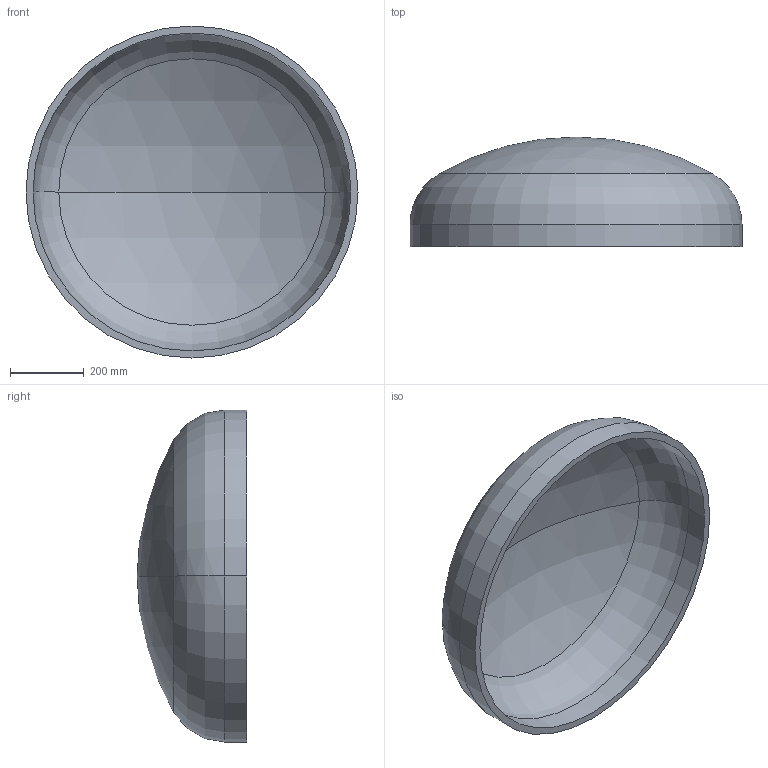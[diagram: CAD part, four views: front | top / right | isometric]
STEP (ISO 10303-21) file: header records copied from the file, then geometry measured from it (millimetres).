
FILE_DESCRIPTION (( 'STEP AP203' ), '1' );
FILE_NAME ('DIN 28013 Korbbogenform_-_Boden DIN 28013 - 900 x 60 - I - s=19.step', '2016-07-01T08:27:19', ( '' ), ( '' ), 'SwSTEP 2.0', 'SolidWorks 2013', '' );
FILE_SCHEMA (( 'CONFIG_CONTROL_DESIGN' ));
Length unit declared in the file: millimetre
Products named in the file (1): DIN 28013 Korbbogenform_-_Boden DIN 28013 - 900 x 60 - I - s=19
Bounding box: 900 x 297.28 x 900 mm (x, y, z)
Volume: 19470127.3 mm3; surface area: 2102829.6 mm2
Topology: 1 solids, 1 shells, 13 faces, 24 edges, 14 vertices
Faces by surface type: torus 4, cylinder 4, sphere 4, plane 1
Entity records: 407 total; most frequent: DIRECTION 72, CARTESIAN_POINT 52, ORIENTED_EDGE 48, AXIS2_PLACEMENT_3D 34, EDGE_CURVE 24, CIRCLE 20, VERTEX_POINT 14, EDGE_LOOP 14
